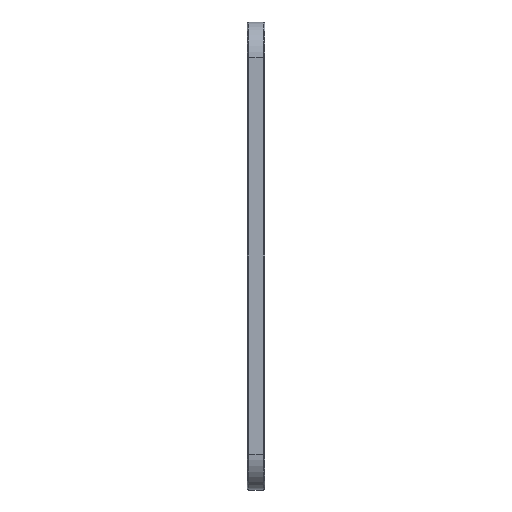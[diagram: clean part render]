
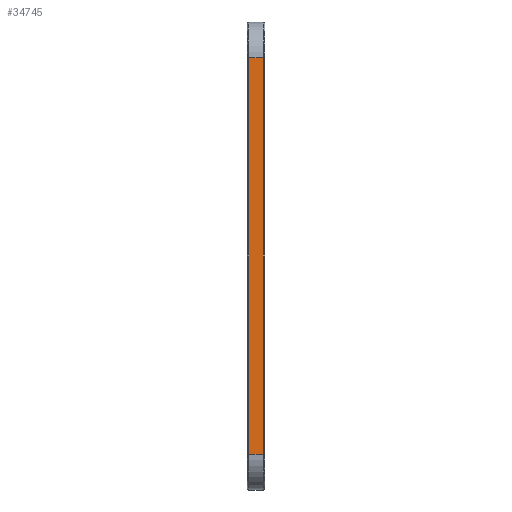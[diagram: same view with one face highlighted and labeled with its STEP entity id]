
A CAD part, left-side view. The second image highlights one B-rep face of the part: STEP entity #34745.
In plain terms, the highlighted planar face has unit normal (-1, 0, 0).
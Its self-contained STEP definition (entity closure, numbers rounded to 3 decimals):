
#177 = LINE ( 'NONE', #7987, #39999 ) ;
#209 = DIRECTION ( 'NONE',  ( 0., -1., 0. ) ) ;
#7987 = CARTESIAN_POINT ( 'NONE',  ( 0., 0.5, -120.5 ) ) ;
#9866 = CARTESIAN_POINT ( 'NONE',  ( 0., 4.5, -10. ) ) ;
#10083 = CARTESIAN_POINT ( 'NONE',  ( 0., 5., -120.5 ) ) ;
#10562 = VERTEX_POINT ( 'NONE', #9866 ) ;
#11926 = ORIENTED_EDGE ( 'NONE', *, *, #40088, .T. ) ;
#12160 = CARTESIAN_POINT ( 'NONE',  ( 0., 0.5, -120.5 ) ) ;
#12805 = ORIENTED_EDGE ( 'NONE', *, *, #34283, .T. ) ;
#13232 = PLANE ( 'NONE',  #39123 ) ;
#14043 = VERTEX_POINT ( 'NONE', #12160 ) ;
#15879 = CARTESIAN_POINT ( 'NONE',  ( 0., 5., -120.5 ) ) ;
#16413 = DIRECTION ( 'NONE',  ( 0., 0., -1. ) ) ;
#16823 = LINE ( 'NONE', #15879, #17800 ) ;
#17800 = VECTOR ( 'NONE', #209, 1000. ) ;
#19619 = LINE ( 'NONE', #35044, #27005 ) ;
#20982 = DIRECTION ( 'NONE',  ( 0., -1., 0. ) ) ;
#21445 = LINE ( 'NONE', #30489, #29839 ) ;
#22737 = VERTEX_POINT ( 'NONE', #38003 ) ;
#24029 = ORIENTED_EDGE ( 'NONE', *, *, #28467, .F. ) ;
#25673 = DIRECTION ( 'NONE',  ( 0., 0., -1. ) ) ;
#26644 = ORIENTED_EDGE ( 'NONE', *, *, #30732, .T. ) ;
#27005 = VECTOR ( 'NONE', #25673, 1000. ) ;
#28467 = EDGE_CURVE ( 'NONE', #10562, #22737, #21445, .T. ) ;
#29839 = VECTOR ( 'NONE', #20982, 1000. ) ;
#29976 = DIRECTION ( 'NONE',  ( 0., 0., 1. ) ) ;
#30370 = CARTESIAN_POINT ( 'NONE',  ( 0., 4.5, -120.5 ) ) ;
#30489 = CARTESIAN_POINT ( 'NONE',  ( 0., 5., -10. ) ) ;
#30732 = EDGE_CURVE ( 'NONE', #35953, #14043, #16823, .T. ) ;
#34283 = EDGE_CURVE ( 'NONE', #10562, #35953, #19619, .T. ) ;
#34745 = ADVANCED_FACE ( 'NONE', ( #34869 ), #13232, .F. ) ;
#34869 = FACE_OUTER_BOUND ( 'NONE', #39541, .T. ) ;
#35044 = CARTESIAN_POINT ( 'NONE',  ( 0., 4.5, -120.5 ) ) ;
#35258 = DIRECTION ( 'NONE',  ( 1., 0., 0. ) ) ;
#35953 = VERTEX_POINT ( 'NONE', #30370 ) ;
#38003 = CARTESIAN_POINT ( 'NONE',  ( 0., 0.5, -10. ) ) ;
#39123 = AXIS2_PLACEMENT_3D ( 'NONE', #10083, #35258, #16413 ) ;
#39541 = EDGE_LOOP ( 'NONE', ( #24029, #12805, #26644, #11926 ) ) ;
#39999 = VECTOR ( 'NONE', #29976, 1000. ) ;
#40088 = EDGE_CURVE ( 'NONE', #14043, #22737, #177, .T. ) ;
